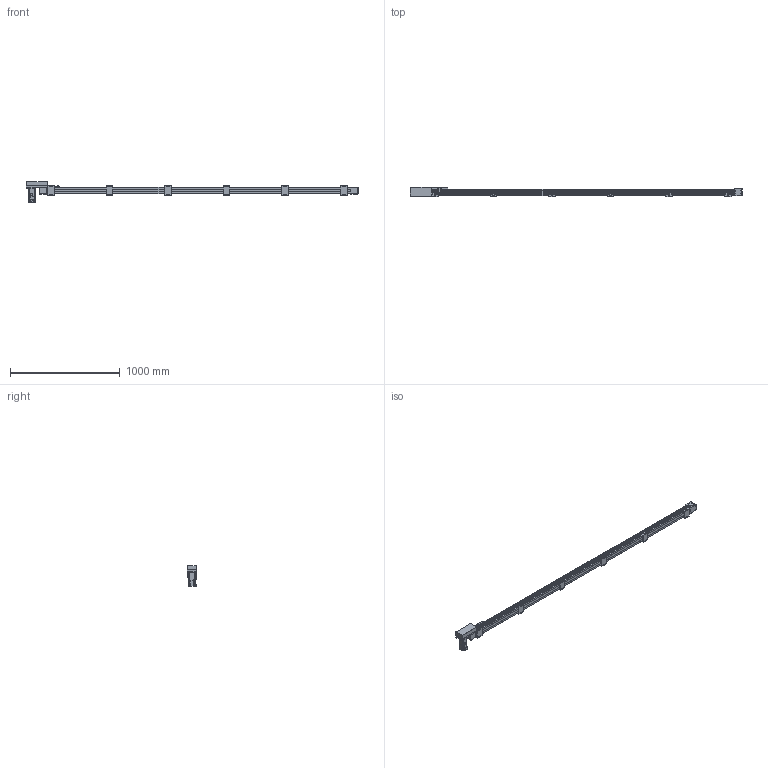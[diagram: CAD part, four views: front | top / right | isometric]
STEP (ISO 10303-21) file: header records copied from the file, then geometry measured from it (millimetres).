
FILE_DESCRIPTION(/* description */ ('STEP AP214'),/* implementation_level */ '2;1');
FILE_NAME(/* name */ 'SK60-P13-S2600-R-T40-C1-N(0)',/* time_stamp */ '2023-04-06T04:28:42+02:00',/* author */ ('License CC BY-ND 4.0'),/* organization */ ('CADENAS'),/* preprocessor_version */ 'ST-DEVELOPER v19.3',/* originating_system */ 'PARTsolutions',/* authorisation */ ' ');
FILE_SCHEMA (('AUTOMOTIVE_DESIGN {1 0 10303 214 3 1 1}'));
Length unit declared in the file: millimetre
Products named in the file (10): SK60-P13-S2600-R-T40-C1-N(0); PSC140-sensor; SK60-S450_seat; SK60-S450-BL-C1_slider; SK60_body3; SK60_body6; SK60-BL_body2; T40-p1; SK60-R_fb; SK60-S2600-R-C1_body
Assembly tree (20 placements, depth 2):
  SK60-P13-S2600-R-T40-C1-N(0)
    PSC140-sensor  x3
    SK60-S450_seat  x6
    SK60-S450-BL-C1_slider
    SK60_body3  x3
    SK60_body6  x2
    SK60-BL_body2  x2
    T40-p1
    SK60-R_fb
    SK60-S2600-R-C1_body
Bounding box: 3020.5 x 90 x 189.7 mm (x, y, z)
Volume: 11091310.6 mm3; surface area: 1311184.8 mm2
Topology: 20 solids, 20 shells, 986 faces, 2440 edges, 1605 vertices
Faces by surface type: plane 620, cylinder 326, cone 38, torus 2
Full cylindrical faces by diameter (mm): 2.8 x3, 3.3 x4, 4 x2, 4.5 x30, 4.6 x3, 4.917 x32, 5 x6, 5.478 x4, 5.5 x35, 6.5 x12, 7 x2, 8 x4, 8.5 x4, 9.988 x4, 10 x24, 14 x1, 47 x3, 50 x2
Entity records: 18687 total; most frequent: DIRECTION 3192, CARTESIAN_POINT 3154, ORIENTED_EDGE 2940, EDGE_CURVE 1470, AXIS2_PLACEMENT_3D 1072, LINE 1048, VECTOR 1048, VERTEX_POINT 1034
